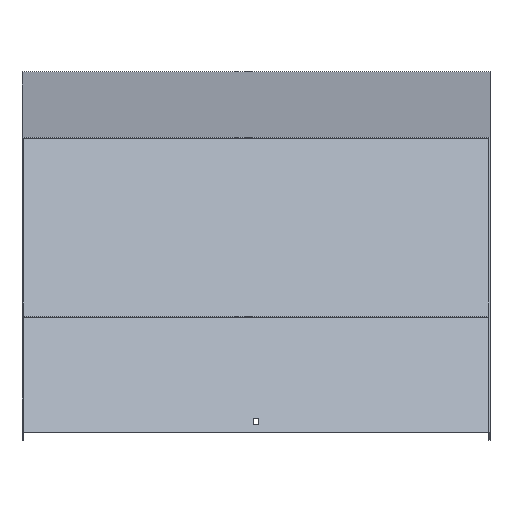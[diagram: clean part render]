
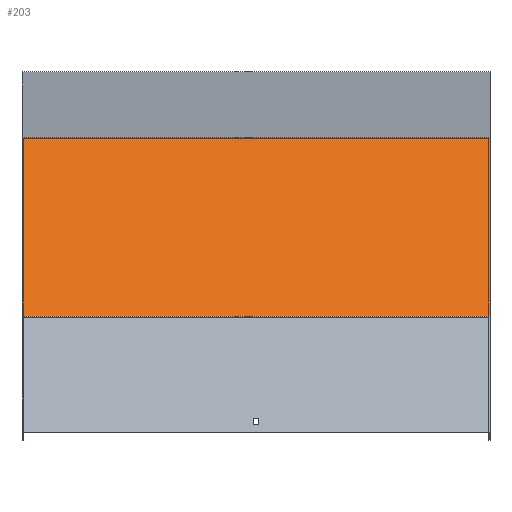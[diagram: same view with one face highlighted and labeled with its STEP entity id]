
A CAD part, top view. The second image highlights one B-rep face of the part: STEP entity #203.
In plain terms, the highlighted planar face has unit normal (0, 0.707, 0.707).
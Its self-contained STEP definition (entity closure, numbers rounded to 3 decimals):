
#4 = ORIENTED_EDGE ( 'NONE', *, *, #875, .F. ) ;
#17 = CARTESIAN_POINT ( 'NONE',  ( 301.5, -68.421, 492.272 ) ) ;
#38 = CARTESIAN_POINT ( 'NONE',  ( 301.5, -295.85, 719.701 ) ) ;
#55 = DIRECTION ( 'NONE',  ( 0., -0.707, 0.707 ) ) ;
#74 = CARTESIAN_POINT ( 'NONE',  ( 301.5, -295.85, 719.701 ) ) ;
#94 = ORIENTED_EDGE ( 'NONE', *, *, #389, .T. ) ;
#203 = ADVANCED_FACE ( 'NONE', ( #269 ), #864, .F. ) ;
#217 = VECTOR ( 'NONE', #848, 1000. ) ;
#257 = DIRECTION ( 'NONE',  ( 0., 0.707, -0.707 ) ) ;
#269 = FACE_OUTER_BOUND ( 'NONE', #563, .T. ) ;
#271 = VERTEX_POINT ( 'NONE', #574 ) ;
#291 = EDGE_CURVE ( 'NONE', #525, #405, #803, .T. ) ;
#329 = CARTESIAN_POINT ( 'NONE',  ( -301.5, -295.85, 719.701 ) ) ;
#347 = VECTOR ( 'NONE', #55, 1000. ) ;
#370 = ORIENTED_EDGE ( 'NONE', *, *, #917, .F. ) ;
#378 = VECTOR ( 'NONE', #956, 1000. ) ;
#389 = EDGE_CURVE ( 'NONE', #271, #525, #625, .T. ) ;
#405 = VERTEX_POINT ( 'NONE', #329 ) ;
#469 = LINE ( 'NONE', #17, #217 ) ;
#514 = AXIS2_PLACEMENT_3D ( 'NONE', #623, #933, #257 ) ;
#517 = CARTESIAN_POINT ( 'NONE',  ( -301.5, -64.632, 488.483 ) ) ;
#525 = VERTEX_POINT ( 'NONE', #517 ) ;
#563 = EDGE_LOOP ( 'NONE', ( #577, #4, #370, #94 ) ) ;
#574 = CARTESIAN_POINT ( 'NONE',  ( 301.5, -64.632, 488.483 ) ) ;
#577 = ORIENTED_EDGE ( 'NONE', *, *, #291, .T. ) ;
#580 = VERTEX_POINT ( 'NONE', #38 ) ;
#581 = VECTOR ( 'NONE', #682, 1000. ) ;
#623 = CARTESIAN_POINT ( 'NONE',  ( 301.5, -68.421, 492.272 ) ) ;
#625 = LINE ( 'NONE', #878, #378 ) ;
#682 = DIRECTION ( 'NONE',  ( -1., 0., 0. ) ) ;
#730 = CARTESIAN_POINT ( 'NONE',  ( -301.5, -68.421, 492.272 ) ) ;
#803 = LINE ( 'NONE', #730, #347 ) ;
#830 = LINE ( 'NONE', #74, #581 ) ;
#848 = DIRECTION ( 'NONE',  ( 0., -0.707, 0.707 ) ) ;
#864 = PLANE ( 'NONE',  #514 ) ;
#875 = EDGE_CURVE ( 'NONE', #580, #405, #830, .T. ) ;
#878 = CARTESIAN_POINT ( 'NONE',  ( 301.5, -64.632, 488.483 ) ) ;
#917 = EDGE_CURVE ( 'NONE', #271, #580, #469, .T. ) ;
#933 = DIRECTION ( 'NONE',  ( 0., -0.707, -0.707 ) ) ;
#956 = DIRECTION ( 'NONE',  ( -1., 0., 0. ) ) ;
